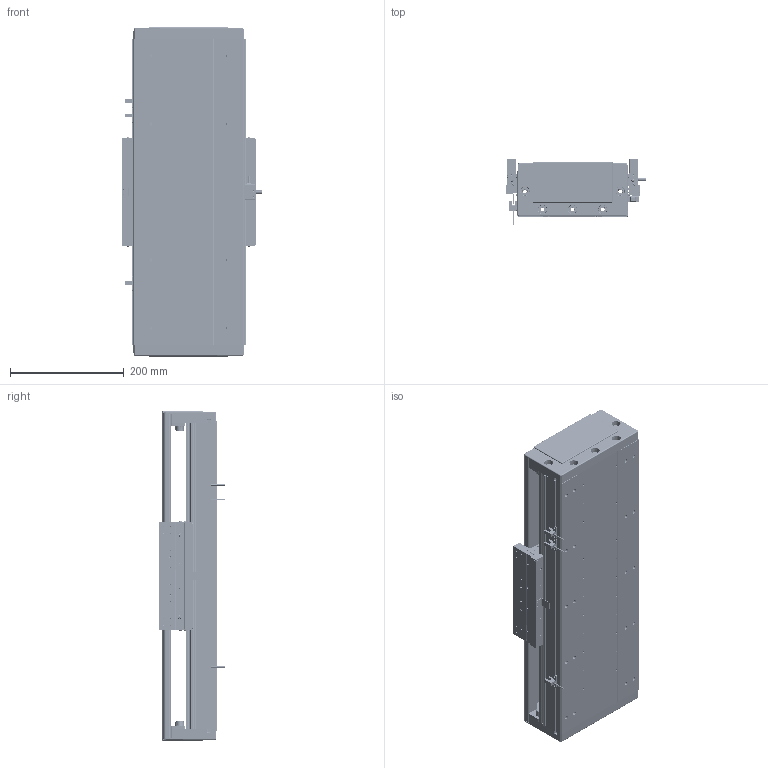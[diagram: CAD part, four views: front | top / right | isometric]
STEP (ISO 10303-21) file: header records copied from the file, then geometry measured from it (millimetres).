
FILE_DESCRIPTION (( 'STEP AP203' ), '1' );
FILE_NAME ('DA-C195-C2-T300-C010-0.2 眻盄萇儂.STEP', '2025-08-15T00:59:19', ( '' ), ( '' ), 'SwSTEP 2.0', 'SolidWorks 2019', '' );
FILE_SCHEMA (( 'CONFIG_CONTROL_DESIGN' ));
Products named in the file (12): CU195-C2賑輸-俋楷; 66156-0001-003-00 裔啣; PM-T45ㄗ侂狟ㄘ; LMT黍杅芛; IU-CU195-L 菁釱絳寢; DA195-DG-H-00  端盖（压铸镂空版）; 66156-0001-005-00 光电感应片(默认); DA95-HXJ-00 遣喳砎蝶; DA-C195-C2-T300-C010-0.2 眻盄萇儂; MS200 棠掑喜S315-T240; IU-CU195-L-00 菁釱(L540); 葩璃 DA95-GT-T-00
Assembly tree (20 placements, depth 3):
  DA-C195-C2-T300-C010-0.2 眻盄萇儂
    IU-CU195-L 菁釱絳寢
      IU-CU195-L-00 菁釱(L540)
      葩璃 DA95-GT-T-00  x4
    LMT黍杅芛
    MS200 棠掑喜S315-T240
    PM-T45ㄗ侂狟ㄘ  x3
    66156-0001-005-00 光电感应片(默认)
    DA195-DG-H-00  端盖（压铸镂空版）  x2
    DA95-HXJ-00 遣喳砎蝶  x4
    66156-0001-003-00 裔啣
    CU195-C2賑輸-俋楷
Bounding box: 248 x 115.6 x 580 mm (x, y, z)
Volume: 4812583.3 mm3; surface area: 1354899.3 mm2
Topology: 58 solids, 130 shells, 5005 faces, 12476 edges, 7529 vertices
Faces by surface type: cylinder 2029, plane 1626, bspline 710, cone 560, torus 44, sphere 36
Entity records: 132491 total; most frequent: CARTESIAN_POINT 40215, ORIENTED_EDGE 19006, DIRECTION 18688, EDGE_CURVE 9503, AXIS2_PLACEMENT_3D 6935, VERTEX_POINT 5959, VECTOR 4818, LINE 4818
